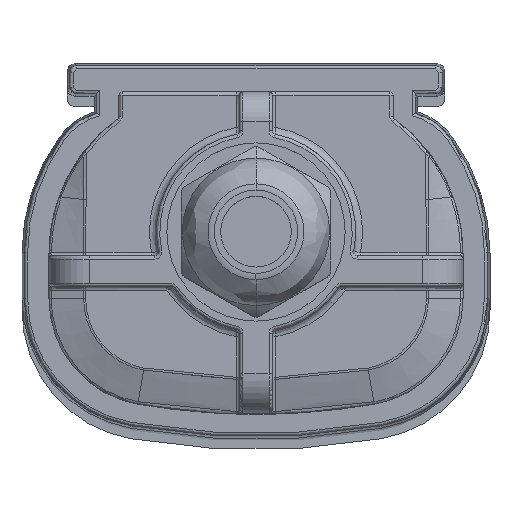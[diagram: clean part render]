
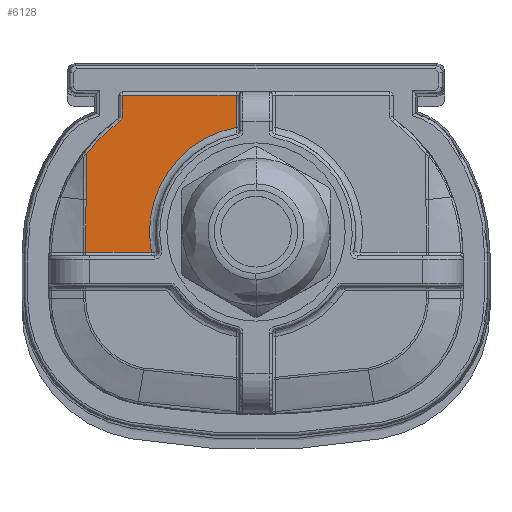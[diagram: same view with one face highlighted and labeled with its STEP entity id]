
A CAD part, top view. The second image highlights one B-rep face of the part: STEP entity #6128.
In plain terms, the highlighted planar face has unit normal (0, 0, 1).
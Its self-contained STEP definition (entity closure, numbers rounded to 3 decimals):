
#939=CARTESIAN_POINT('',(-24.702,11.437,3.6));
#940=CARTESIAN_POINT('',(-24.702,11.42,3.6));
#941=CARTESIAN_POINT('',(-24.703,11.384,3.6));
#942=CARTESIAN_POINT('',(-24.703,11.323,3.6));
#943=CARTESIAN_POINT('',(-24.704,11.254,3.6));
#944=CARTESIAN_POINT('',(-24.705,11.174,3.6));
#945=CARTESIAN_POINT('',(-24.706,11.082,3.6));
#946=CARTESIAN_POINT('',(-24.707,10.98,3.6));
#947=CARTESIAN_POINT('',(-24.708,10.868,3.6));
#948=CARTESIAN_POINT('',(-24.709,10.745,3.6));
#949=CARTESIAN_POINT('',(-24.71,10.608,3.6));
#950=CARTESIAN_POINT('',(-24.712,10.454,3.6));
#951=CARTESIAN_POINT('',(-24.713,10.28,3.6));
#952=CARTESIAN_POINT('',(-24.715,10.089,3.6));
#953=CARTESIAN_POINT('',(-24.718,9.882,3.6));
#954=CARTESIAN_POINT('',(-24.72,9.663,3.6));
#955=CARTESIAN_POINT('',(-24.722,9.432,3.6));
#956=CARTESIAN_POINT('',(-24.725,9.186,3.6));
#957=CARTESIAN_POINT('',(-24.728,8.922,3.6));
#958=CARTESIAN_POINT('',(-24.731,8.634,3.6));
#959=CARTESIAN_POINT('',(-24.735,8.321,3.6));
#960=CARTESIAN_POINT('',(-24.739,7.982,3.6));
#961=CARTESIAN_POINT('',(-24.744,7.618,3.6));
#962=CARTESIAN_POINT('',(-24.749,7.226,3.6));
#963=CARTESIAN_POINT('',(-24.754,6.803,3.6));
#964=CARTESIAN_POINT('',(-24.761,6.344,3.6));
#965=CARTESIAN_POINT('',(-24.768,5.847,3.6));
#966=CARTESIAN_POINT('',(-24.776,5.311,3.6));
#967=CARTESIAN_POINT('',(-24.783,4.926,3.6));
#968=CARTESIAN_POINT('',(-24.786,4.726,3.6));
#973=CARTESIAN_POINT('',(-5.917,-3.134,3.6));
#974=DIRECTION('',(0.,0.,-1.));
#975=DIRECTION('',(-0.79,0.613,0.));
#976=AXIS2_PLACEMENT_3D('',#973,#974,#975);
#981=CARTESIAN_POINT('',(-20.5,16.893,3.6));
#982=DIRECTION('',(0.,0.,1.));
#983=DIRECTION('',(0.589,-0.808,0.));
#984=AXIS2_PLACEMENT_3D('',#981,#982,#983);
#989=DIRECTION('',(0.,1.,0.));
#990=VECTOR('',#989,3.047);
#991=CARTESIAN_POINT('',(-19.5,16.893,3.6));
#992=LINE('',#991,#990);
#996=DIRECTION('',(1.,0.,0.));
#997=VECTOR('',#996,16.602);
#998=CARTESIAN_POINT('',(-19.5,19.94,3.6));
#999=LINE('',#998,#997);
#1003=DIRECTION('',(0.,-1.,0.));
#1004=VECTOR('',#1003,4.675);
#1005=CARTESIAN_POINT('',(-2.898,19.94,3.6));
#1006=LINE('',#1005,#1004);
#1010=CARTESIAN_POINT('',(0.,0.,3.6));
#1011=DIRECTION('',(0.,0.,-1.));
#1012=DIRECTION('',(-0.982,-0.191,0.));
#1013=AXIS2_PLACEMENT_3D('',#1010,#1011,#1012);
#1018=DIRECTION('',(-1.,0.,0.));
#1019=VECTOR('',#1018,9.588);
#1020=CARTESIAN_POINT('',(-15.252,-2.966,
3.6));
#1021=LINE('',#1020,#1019);
#1025=CARTESIAN_POINT('',(-24.786,4.726,3.6));
#1026=CARTESIAN_POINT('',(-24.79,4.477,3.6));
#1027=CARTESIAN_POINT('',(-24.798,3.982,3.6));
#1028=CARTESIAN_POINT('',(-24.807,3.265,3.6));
#1029=CARTESIAN_POINT('',(-24.814,2.529,3.6));
#1030=CARTESIAN_POINT('',(-24.821,1.806,3.6));
#1031=CARTESIAN_POINT('',(-24.826,1.111,3.6));
#1032=CARTESIAN_POINT('',(-24.829,0.459,
3.6));
#1033=CARTESIAN_POINT('',(-24.833,-0.178,
3.6));
#1034=CARTESIAN_POINT('',(-24.835,-0.816,
3.6));
#1035=CARTESIAN_POINT('',(-24.837,-1.471,
3.6));
#1036=CARTESIAN_POINT('',(-24.839,-2.169,
3.6));
#1037=CARTESIAN_POINT('',(-24.84,-2.693,
3.6));
#1038=CARTESIAN_POINT('',(-24.84,-2.966,
3.6));
#1508=CARTESIAN_POINT('',(-15.252,-2.966,
3.6));
#1513=CARTESIAN_POINT('',(-2.898,15.265,3.6));
#4652=VERTEX_POINT('',#1508);
#4675=VERTEX_POINT('',#1513);
#4721=CARTESIAN_POINT('',(-2.898,19.94,3.6));
#4722=VERTEX_POINT('',#4721);
#4725=CARTESIAN_POINT('',(-19.5,19.94,3.6));
#4726=VERTEX_POINT('',#4725);
#4731=CARTESIAN_POINT('',(-19.5,16.893,3.6));
#4732=VERTEX_POINT('',#4731);
#4735=CARTESIAN_POINT('',(-19.911,16.084,3.6));
#4736=VERTEX_POINT('',#4735);
#4883=VERTEX_POINT('',#939);
#4884=VERTEX_POINT('',#968);
#4887=VERTEX_POINT('',#1038);
#6103=CARTESIAN_POINT('',(0.,0.,3.6));
#6104=DIRECTION('',(0.,0.,1.));
#6105=DIRECTION('',(1.,0.,0.));
#6106=AXIS2_PLACEMENT_3D('',#6103,#6104,#6105);
#6107=PLANE('',#6106);
#6109=ORIENTED_EDGE('',*,*,#6108,.F.);
#6111=ORIENTED_EDGE('',*,*,#6110,.T.);
#6113=ORIENTED_EDGE('',*,*,#6112,.T.);
#6115=ORIENTED_EDGE('',*,*,#6114,.T.);
#6117=ORIENTED_EDGE('',*,*,#6116,.T.);
#6119=ORIENTED_EDGE('',*,*,#6118,.T.);
#6121=ORIENTED_EDGE('',*,*,#6120,.F.);
#6123=ORIENTED_EDGE('',*,*,#6122,.T.);
#6125=ORIENTED_EDGE('',*,*,#6124,.F.);
#6126=EDGE_LOOP('',(#6109,#6111,#6113,#6115,#6117,#6119,#6121,#6123,#6125));
#6127=FACE_OUTER_BOUND('',#6126,.F.);
#6128=ADVANCED_FACE('',(#6127),#6107,.T.);
#969=B_SPLINE_CURVE_WITH_KNOTS('',3,(#939,#940,#941,#942,#943,#944,#945,#946,
#947,#948,#949,#950,#951,#952,#953,#954,#955,#956,#957,#958,#959,#960,#961,#962,
#963,#964,#965,#966,#967,#968),.UNSPECIFIED.,.F.,.F.,(4,1,1,1,1,1,1,1,1,1,1,1,1,
1,1,1,1,1,1,1,1,1,1,1,1,1,1,4),(0.,0.037,0.074,
0.111,0.148,0.185,0.222,
0.259,0.296,0.333,0.37,
0.407,0.444,0.481,0.519,
0.556,0.593,0.63,0.667,
0.704,0.741,0.778,0.815,
0.852,0.889,0.926,0.963,1.),
.UNSPECIFIED.);
#977=CIRCLE('',#976,23.774);
#985=CIRCLE('',#984,1.);
#1014=CIRCLE('',#1013,15.538);
#1039=B_SPLINE_CURVE_WITH_KNOTS('',3,(#1025,#1026,#1027,#1028,#1029,#1030,#1031,
#1032,#1033,#1034,#1035,#1036,#1037,#1038),.UNSPECIFIED.,.F.,.F.,(4,1,1,1,1,1,1,
1,1,1,1,4),(0.,0.091,0.182,0.273,
0.364,0.455,0.545,0.636,
0.727,0.818,0.909,1.),.UNSPECIFIED.);
#6108=EDGE_CURVE('',#4883,#4884,#969,.T.);
#6110=EDGE_CURVE('',#4883,#4736,#977,.T.);
#6112=EDGE_CURVE('',#4736,#4732,#985,.T.);
#6114=EDGE_CURVE('',#4732,#4726,#992,.T.);
#6116=EDGE_CURVE('',#4726,#4722,#999,.T.);
#6118=EDGE_CURVE('',#4722,#4675,#1006,.T.);
#6120=EDGE_CURVE('',#4652,#4675,#1014,.T.);
#6122=EDGE_CURVE('',#4652,#4887,#1021,.T.);
#6124=EDGE_CURVE('',#4884,#4887,#1039,.T.);
